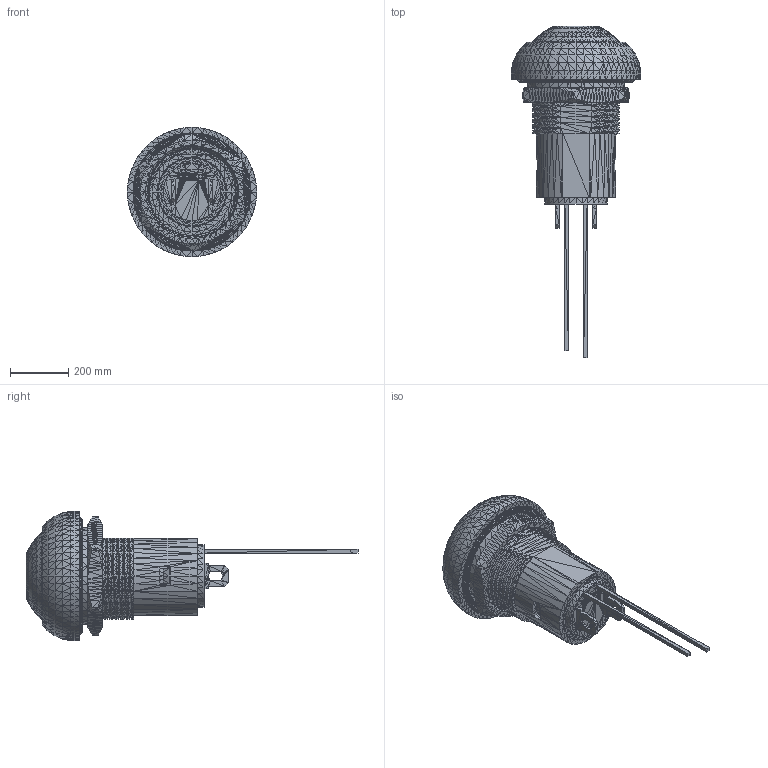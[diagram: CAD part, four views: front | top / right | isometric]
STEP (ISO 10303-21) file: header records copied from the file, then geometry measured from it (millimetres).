
FILE_DESCRIPTION(/* description */ (''),/* implementation_level */ '2;1');
FILE_NAME(/* name */ 'DPWL 1 AG-xy.stp',/* time_stamp */ '2015-3-2T15:14:32.3216383',/* author */ ('knitter-switch'),/* organization */ (''),/* preprocessor_version */ 'InStep v2',/* originating_system */ 'InStep V2.3',/* authorisation */ '');
FILE_SCHEMA (('AUTOMOTIVE_DESIGN { 1 0 10303 214 1 1 1 1 }'));
Length unit declared in the file: centimetre
Products named in the file (1): None
Bounding box: 444.5 x 1142.24 x 444.5 mm (x, y, z)
Topology: 1 solids, 5 shells, 10186 faces, 15270 edges, 5056 vertices
Faces by surface type: plane 10186
Entity records: 157936 total; most frequent: ORIENTED_EDGE 30550, DIRECTION 22971, LINE 15275, EDGE_CURVE 15275, VECTOR 12783, AXIS2_PLACEMENT_3D 10187, EDGE_LOOP 10186, FACE_OUTER_BOUND 10186
